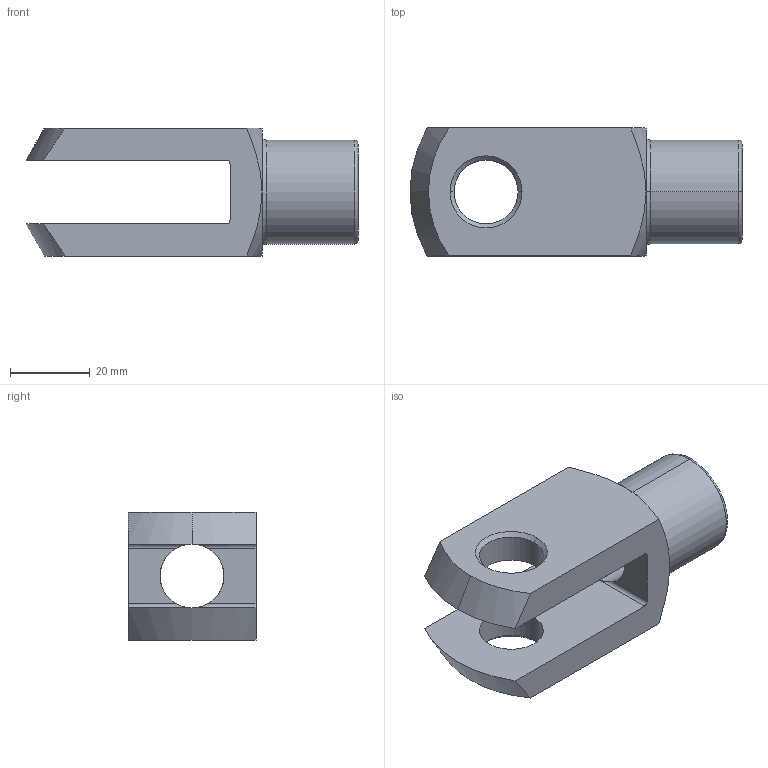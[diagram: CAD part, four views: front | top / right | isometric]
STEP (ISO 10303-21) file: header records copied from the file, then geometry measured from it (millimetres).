
FILE_DESCRIPTION (( 'STEP AP203' ), '1' );
FILE_NAME ('65636.W0164.step', '2014-01-17T13:14:28', ( 'User' ), ( '' ), 'SwSTEP 2.0', 'SolidWorks 2009', '' );
FILE_SCHEMA (( 'CONFIG_CONTROL_DESIGN' ));
Length unit declared in the file: millimetre
Products named in the file (1): 65636.W0164
Bounding box: 83 x 32 x 32 mm (x, y, z)
Volume: 35129.8 mm3; surface area: 13485.8 mm2
Topology: 1 solids, 1 shells, 39 faces, 93 edges, 56 vertices
Faces by surface type: cone 13, cylinder 12, plane 10, torus 4
Entity records: 1328 total; most frequent: CARTESIAN_POINT 333, DIRECTION 201, ORIENTED_EDGE 186, EDGE_CURVE 93, AXIS2_PLACEMENT_3D 84, VERTEX_POINT 56, EDGE_LOOP 45, CIRCLE 44
